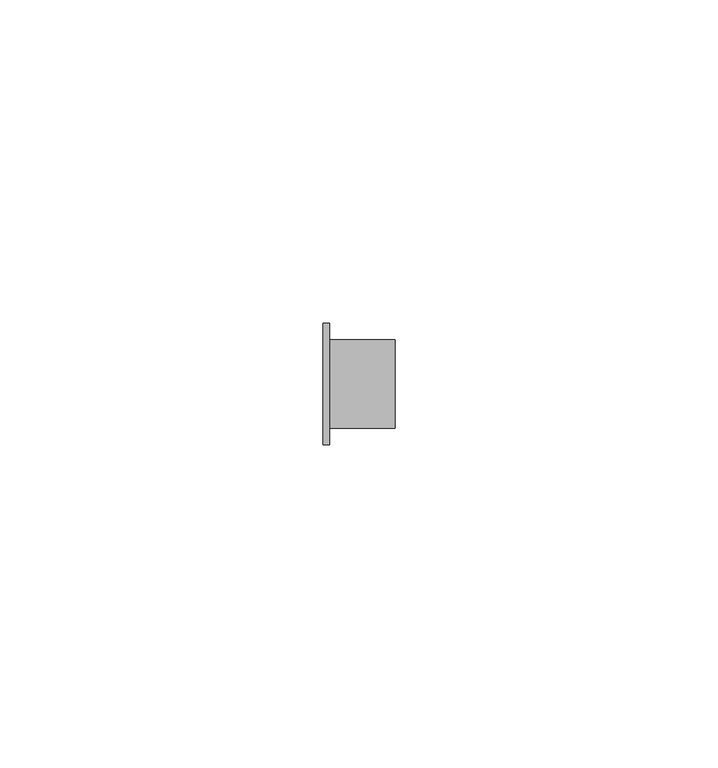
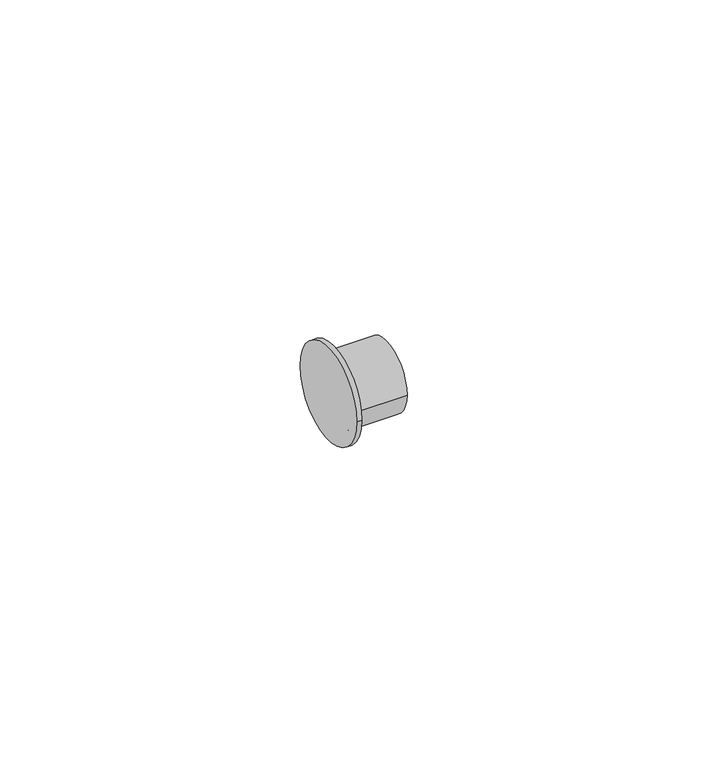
"""IFC4 building model written with IfcOpenShell, lengths in millimetres: pipe fitting geometry, Bucha de redução reta - Soldada - CU : Padrão."""

from ifc_helpers import new_model, si_unit, frame, origin, place, context, project, spatial, circle_curve, source, transform, mapped, element, save
from ifc_brep_helpers import plane_surface, cylinder_surface, advanced_brep


def pipe_fitting_e6d02d16(model_context):
    return source(origin(), model_context, "Body", "AdvancedBrep", [
        advanced_brep(
        [(0.0, -9.425, 0.0), (0.0, 9.425, 0.0), (1.0, -9.425, 0.0), (1.0, 9.425, 0.0), (1.0, -6.877, 0.0), (1.0, 6.877, 0.0), (11.169, -6.877, 0.0), (11.169, 6.877, 0.0)],
        [
            (0, 1, circle_curve(frame((0.0, 0.0, 0.0), z_axis=(-1.0, 0.0, 0.0), x_axis=(0.0, 1.0, 0.0)), 9.425)),
            (1, 0, circle_curve(frame((0.0, 0.0, 0.0), z_axis=(-1.0, 0.0, 0.0), x_axis=(0.0, 1.0, 0.0)), 9.425)),
            (2, 3, circle_curve(frame((1.0, 0.0, 0.0), z_axis=(1.0, 0.0, 0.0), x_axis=(0.0, 1.0, 0.0)), 9.425)),
            (3, 2, circle_curve(frame((1.0, 0.0, 0.0), z_axis=(1.0, 0.0, 0.0), x_axis=(0.0, 1.0, 0.0)), 9.425)),
            (4, 5, circle_curve(frame((1.0, 0.0, 0.0), z_axis=(-1.0, 0.0, 0.0), x_axis=(0.0, 1.0, 0.0)), 6.877)),
            (5, 4, circle_curve(frame((1.0, 0.0, 0.0), z_axis=(-1.0, 0.0, 0.0), x_axis=(0.0, 1.0, 0.0)), 6.877)),
            (0, 2),
            (3, 1),
            (6, 7, circle_curve(frame((11.169, 0.0, 0.0), z_axis=(1.0, 0.0, 0.0), x_axis=(0.0, 1.0, 0.0)), 6.877)),
            (7, 6, circle_curve(frame((11.169, 0.0, 0.0), z_axis=(1.0, 0.0, 0.0), x_axis=(0.0, 1.0, 0.0)), 6.877)),
            (7, 5),
            (4, 6),
        ],
        [
            plane_surface(frame((0.0, 0.0, 0.0), z_axis=(-1.0, 0.0, 0.0), x_axis=(0.0, 0.0, 1.0))),
            plane_surface(frame((1.0, 0.0, 0.0), z_axis=(1.0, 0.0, 0.0), x_axis=(0.0, 0.0, 1.0))),
            cylinder_surface(frame((0.0, 0.0, 0.0), z_axis=(-1.0, 0.0, 0.0), x_axis=(0.0, 1.0, 0.0)), 9.425),
            plane_surface(frame((11.169, 0.0, 0.0), z_axis=(1.0, 0.0, 0.0), x_axis=(0.0, 0.0, 1.0))),
            cylinder_surface(frame((1.0, 0.0, 0.0), z_axis=(-1.0, 0.0, 0.0), x_axis=(0.0, 1.0, 0.0)), 6.877),
        ],
        [
            (0, [[1, 2]]),
            (1, [[3, 4], [5, 6]]),
            (2, [[-1, 7, -4, 8]]),
            (2, [[-2, -8, -3, -7]]),
            (3, [[9, 10]]),
            (4, [[-10, 11, -5, 12]]),
            (4, [[-9, -12, -6, -11]]),
        ],
    ),
    ])


if __name__ == "__main__":
    model = new_model("IFC4")
    model_context = context("Model", 3, world=origin())
    ifc_project = project(units=[si_unit("LENGTHUNIT", "METRE", prefix="MILLI")], contexts=[model_context])
    site = spatial("IfcSite", under=ifc_project)
    building = spatial("IfcBuilding", under=site)
    placement = place(None, origin())
    pipe_fitting_shape = pipe_fitting_e6d02d16(model_context)
    element("IfcPipeFitting", 1, ObjectType="Bucha de redução reta - Soldada - CU : Padrão", at=placement, inside=building, context=model_context, shape_type="MappedRepresentation", body=[
        mapped(pipe_fitting_shape, transform((0.0, 0.0, 0.0), x_axis=(1.0, 0.0, 0.0), y_axis=(0.0, 1.0, 0.0), z_axis=(0.0, 0.0, 1.0))),
    ])
    save(model, "model.ifc")
